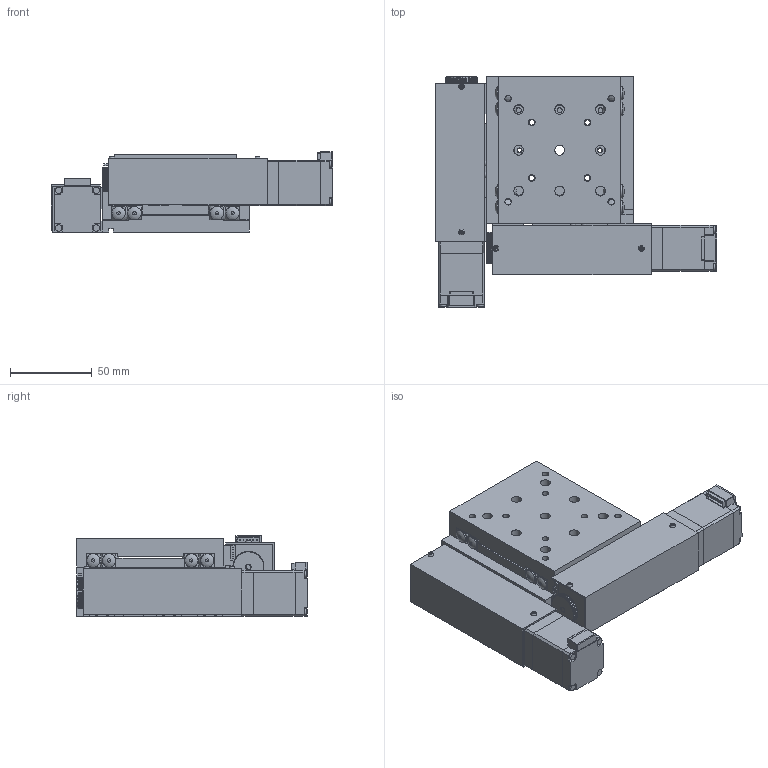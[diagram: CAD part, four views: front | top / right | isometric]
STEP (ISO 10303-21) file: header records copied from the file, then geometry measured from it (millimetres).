
FILE_DESCRIPTION (( 'STEP AP203' ), '1' );
FILE_NAME ('JT90-30.step', '2017-01-10T10:30:50', ( '¦K¬P' ), ( '' ), 'SwSTEP 2.0', 'SolidWorks 2012', '' );
FILE_SCHEMA (( 'CONFIG_CONTROL_DESIGN' ));
Length unit declared in the file: millimetre
Products named in the file (1): JT90-30
Bounding box: 172 x 141 x 49 mm (x, y, z)
Surface area: 139240.7 mm2 (no closed solid volume)
Topology: 0 solids, 86 shells, 951 faces, 3260 edges, 2346 vertices
Faces by surface type: plane 566, cylinder 264, cone 101, torus 20
Full cylindrical faces by diameter (mm): 0.5 x12, 1.6 x2, 2.5 x13, 3 x20, 3.3 x8, 3.4 x4, 3.5 x4, 4 x31, 5 x4, 6 x23, 7 x4, 10 x1, 12 x4, 15 x2
Entity records: 34560 total; most frequent: CARTESIAN_POINT 7707, DIRECTION 5498, ORIENTED_EDGE 4552, EDGE_CURVE 3021, VERTEX_POINT 2268, AXIS2_PLACEMENT_3D 1839, VECTOR 1820, LINE 1820
